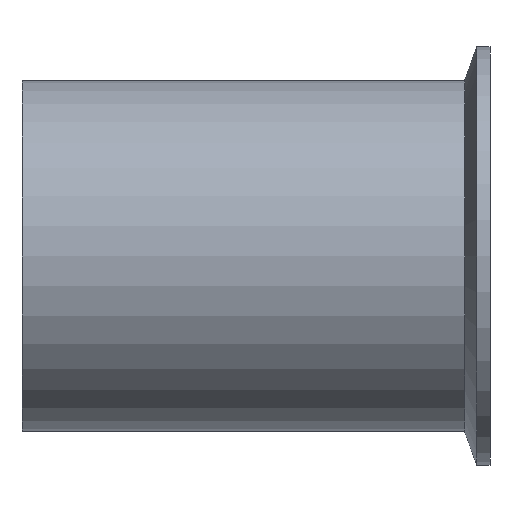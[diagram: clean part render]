
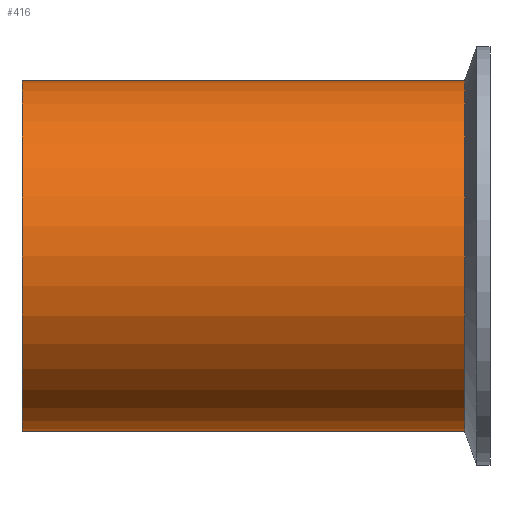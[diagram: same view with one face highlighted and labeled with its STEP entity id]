
A CAD part, left-side view. The second image highlights one B-rep face of the part: STEP entity #416.
In plain terms, the highlighted cylindrical face has radius 38.1 mm (diameter 76.2 mm), a partial arc.
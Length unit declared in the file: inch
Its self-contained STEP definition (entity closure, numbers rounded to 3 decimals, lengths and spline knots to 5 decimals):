
#11 = AXIS2_PLACEMENT_3D ( 'NONE', #447, #197, #372 ) ;
#41 = CYLINDRICAL_SURFACE ( 'NONE', #11, 1.5 ) ;
#57 = CARTESIAN_POINT ( 'NONE',  ( 0., 4., 1.5 ) ) ;
#66 = LINE ( 'NONE', #440, #273 ) ;
#77 = EDGE_CURVE ( 'NONE', #353, #411, #479, .T. ) ;
#80 = CARTESIAN_POINT ( 'NONE',  ( 0., 4., 0. ) ) ;
#81 = EDGE_CURVE ( 'NONE', #145, #328, #369, .T. ) ;
#103 = CARTESIAN_POINT ( 'NONE',  ( 0., 0.21737, 0. ) ) ;
#122 = DIRECTION ( 'NONE',  ( 0., 0., -1. ) ) ;
#130 = EDGE_LOOP ( 'NONE', ( #503, #235, #444, #185 ) ) ;
#141 = CARTESIAN_POINT ( 'NONE',  ( 0., 0., -1.5 ) ) ;
#145 = VERTEX_POINT ( 'NONE', #424 ) ;
#149 = DIRECTION ( 'NONE',  ( 0., 0., -1. ) ) ;
#164 = DIRECTION ( 'NONE',  ( 0., -1., 0. ) ) ;
#185 = ORIENTED_EDGE ( 'NONE', *, *, #81, .F. ) ;
#197 = DIRECTION ( 'NONE',  ( 0., -1., 0. ) ) ;
#227 = CARTESIAN_POINT ( 'NONE',  ( 0., 0.21737, -1.5 ) ) ;
#235 = ORIENTED_EDGE ( 'NONE', *, *, #77, .T. ) ;
#267 = AXIS2_PLACEMENT_3D ( 'NONE', #103, #402, #149 ) ;
#273 = VECTOR ( 'NONE', #395, 39.37008 ) ;
#278 = CARTESIAN_POINT ( 'NONE',  ( 0., 4., -1.5 ) ) ;
#325 = EDGE_CURVE ( 'NONE', #353, #145, #66, .T. ) ;
#328 = VERTEX_POINT ( 'NONE', #227 ) ;
#330 = EDGE_CURVE ( 'NONE', #411, #328, #391, .T. ) ;
#353 = VERTEX_POINT ( 'NONE', #57 ) ;
#369 = CIRCLE ( 'NONE', #267, 1.5 ) ;
#372 = DIRECTION ( 'NONE',  ( 0., 0., -1. ) ) ;
#375 = DIRECTION ( 'NONE',  ( 0., -1., 0. ) ) ;
#381 = FACE_OUTER_BOUND ( 'NONE', #130, .T. ) ;
#391 = LINE ( 'NONE', #141, #484 ) ;
#395 = DIRECTION ( 'NONE',  ( 0., -1., 0. ) ) ;
#402 = DIRECTION ( 'NONE',  ( 0., -1., 0. ) ) ;
#411 = VERTEX_POINT ( 'NONE', #278 ) ;
#416 = ADVANCED_FACE ( 'NONE', ( #381 ), #41, .T. ) ;
#424 = CARTESIAN_POINT ( 'NONE',  ( 0., 0.21737, 1.5 ) ) ;
#440 = CARTESIAN_POINT ( 'NONE',  ( 0., 0., 1.5 ) ) ;
#444 = ORIENTED_EDGE ( 'NONE', *, *, #330, .T. ) ;
#447 = CARTESIAN_POINT ( 'NONE',  ( 0., 0., 0. ) ) ;
#466 = AXIS2_PLACEMENT_3D ( 'NONE', #80, #375, #122 ) ;
#479 = CIRCLE ( 'NONE', #466, 1.5 ) ;
#484 = VECTOR ( 'NONE', #164, 39.37008 ) ;
#503 = ORIENTED_EDGE ( 'NONE', *, *, #325, .F. ) ;
